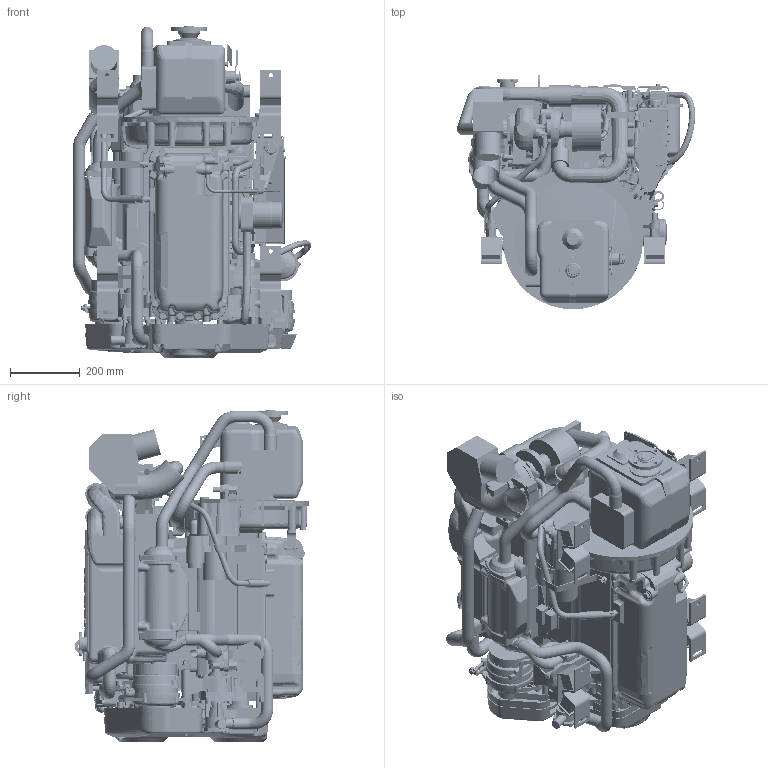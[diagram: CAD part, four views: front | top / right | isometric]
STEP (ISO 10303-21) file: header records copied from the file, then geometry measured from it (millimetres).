
FILE_DESCRIPTION((''),'2;1');
FILE_NAME('00_4JH80-110_ASM','2018-10-09T',('ib46307'),(''),'PRO/ENGINEER BY PARAMETRIC TECHNOLOGY CORPORATION, 2015360','PRO/ENGINEER BY PARAMETRIC TECHNOLOGY CORPORATION, 2015360','');
FILE_SCHEMA(('CONFIG_CONTROL_DESIGN'));
Products named in the file (142): D29677-01100-SW01-L_1; D29677-01210-SW01-L_1; D27677-01300-SW01-L_1; D29673-01700-4JH110-SW01-L_1; D29677-01910-SW01-L_1; D29055-07300-1-4JH100-SW01_1; MANIFOLD_SOLID_BREP_179433; MANIFOLD_SOLID_BREP_180583; MANIFOLD_SOLID_BREP_181733; MANIFOLD_SOLID_BREP_182885; MANIFOLD_SOLID_BREP_184051; D29677-11100-SW01-L_1_ASM; D29677-11250-SW01-L_1; D29677-12100-SW01-L_1; MANIFOLD_SOLID_BREP_217591; MANIFOLD_SOLID_BREP_218860; D29677-21200-SW01-L_1_ASM; D29677-21300-SW01-L_1; D29A00-21700-4JH110-SW01_1; D29677-35200-SW01-L_1; D29677-39100-SW01_1; D29677-42300-SW01-L_1; MANIFOLD_SOLID_BREP_266955; MANIFOLD_SOLID_BREP_267117; D29470-49300-SW01_1_ASM; D29A00-51100-4JH110-SW01-L_1; MANIFOLD_SOLID_BREP_311681; MANIFOLD_SOLID_BREP_312357; MANIFOLD_SOLID_BREP_313033; MANIFOLD_SOLID_BREP_313629; D29677-53100-SW01-L_1_ASM; D29677-57110-SW01-L_1; MANIFOLD_SOLID_BREP_328700; MANIFOLD_SOLID_BREP_330731; MANIFOLD_SOLID_BREP_332762; D29677-59100-SW01-L_1_ASM; D29677-59350-SW01-L_1; B2-29677-090X-L_ASM_1_ASM; MANIFOLD_SOLID_BREP_336978; MANIFOLD_SOLID_BREP_337880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
Assembly tree (141 placements, depth 7):
  00_4JH80-110_ASM
    00_BASE_ASM
      PUB-4JH110_ASM_1_ASM
        B2-29677-001X-L_ASM_1_ASM
          B2-29677-090X-L_ASM_1_ASM
            D29677-01100-SW01-L_1
            D29677-01210-SW01-L_1
            D27677-01300-SW01-L_1
            D29673-01700-4JH110-SW01-L_1
            D29677-01910-SW01-L_1
            D29055-07300-1-4JH100-SW01_1
            D29677-11100-SW01-L_1_ASM
              MANIFOLD_SOLID_BREP_179433
              MANIFOLD_SOLID_BREP_180583
              MANIFOLD_SOLID_BREP_181733
              MANIFOLD_SOLID_BREP_182885
              MANIFOLD_SOLID_BREP_184051
            D29677-11250-SW01-L_1
            D29677-12100-SW01-L_1
            D29677-21200-SW01-L_1_ASM
              MANIFOLD_SOLID_BREP_217591
              MANIFOLD_SOLID_BREP_218860
            D29677-21300-SW01-L_1
            D29A00-21700-4JH110-SW01_1
            D29677-35200-SW01-L_1
            D29677-39100-SW01_1
            D29677-42300-SW01-L_1
            D29470-49300-SW01_1_ASM
              MANIFOLD_SOLID_BREP_266955
              MANIFOLD_SOLID_BREP_267117
            D29A00-51100-4JH110-SW01-L_1
            D29677-53100-SW01-L_1_ASM
              MANIFOLD_SOLID_BREP_311681
              MANIFOLD_SOLID_BREP_312357
              MANIFOLD_SOLID_BREP_313033
              MANIFOLD_SOLID_BREP_313629
            D29677-57110-SW01-L_1
            D29677-59100-SW01-L_1_ASM
              MANIFOLD_SOLID_BREP_328700
              MANIFOLD_SOLID_BREP_330731
              MANIFOLD_SOLID_BREP_332762
            D29677-59350-SW01-L_1
          D29677-03100-SW01_1_ASM
            MANIFOLD_SOLID_BREP_336978
            MANIFOLD_SOLID_BREP_337880
          D29671-08100-4JH110-SW01-L_1_ASM
            MANIFOLD_SOLID_BREP_341010
            MANIFOLD_SOLID_BREP_346163
            MANIFOLD_SOLID_BREP_349182
            MANIFOLD_SOLID_BREP_353360
          D29677-09220-SW01-L_1
          D29472-12140-4JH110-SW01-L_1
          D29677-18100-SW01-L_1
          D29672-18210-JH-SW1-L_1
          D29672-18250-4JH110-SW01-L_1
          D29693-18260-4JH110-SW01-L_1
          D29677-34200-SW01-L_1_ASM
            MANIFOLD_SOLID_BREP_490449
            MANIFOLD_SOLID_BREP_491377
          D29677-39250-SW01-L_1_ASM
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Bounding box: 683.99 x 674.78 x 953.7 mm (x, y, z)
Volume: 83046506.7 mm3; surface area: 9312352.2 mm2
Topology: 94 solids, 104 shells, 14826 faces, 40455 edges, 26197 vertices
Faces by surface type: plane 5714, cylinder 4143, bspline 2922, torus 848, cone 828, sphere 263, extrusion 97, revolution 11
Entity records: 839155 total; most frequent: CARTESIAN_POINT 486786, ORIENTED_EDGE 80365, DIRECTION 62667, EDGE_CURVE 40184, VERTEX_POINT 26198, AXIS2_PLACEMENT_3D 23159, VECTOR 16338, LINE 16241
